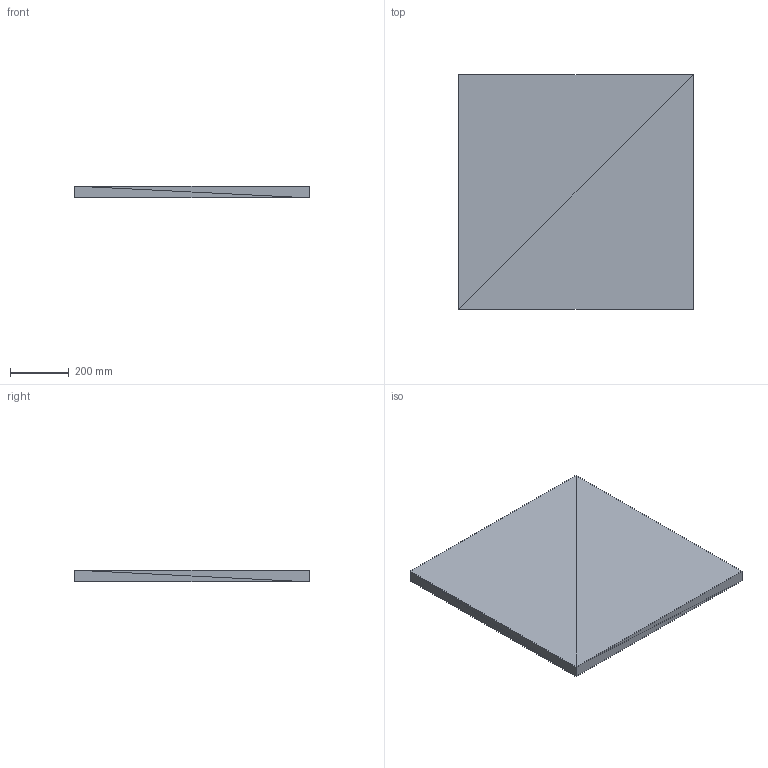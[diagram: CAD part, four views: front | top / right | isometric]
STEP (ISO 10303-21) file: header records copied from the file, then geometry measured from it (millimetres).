
FILE_DESCRIPTION(('ISINAC STEP AP214'),'2;1');
FILE_NAME('ISINAC_C.800_40mm_ADHESIVO','2026-05-03T10:49:19',('ISINAC'),('www.isinac.com'),'ISINAC BIM Generator 1.0','','');
FILE_SCHEMA(('AUTOMOTIVE_DESIGN'));
Length unit declared in the file: millimetre
Products named in the file (1): ISINAC_C.800_40mm_ADHESIVO
Bounding box: 800 x 800 x 40 mm (x, y, z)
Surface area: 1408000 mm2 (no closed solid volume)
Topology: 0 solids, 12 shells, 12 faces, 36 edges, 36 vertices
Faces by surface type: plane 12
Entity records: 145 total; most frequent: CARTESIAN_POINT 48, DIRECTION 24, POLY_LOOP 12, FACE_OUTER_BOUND 12, AXIS2_PLACEMENT_3D 12, PLANE 12, FACE_SURFACE 12, CLOSED_SHELL 1
